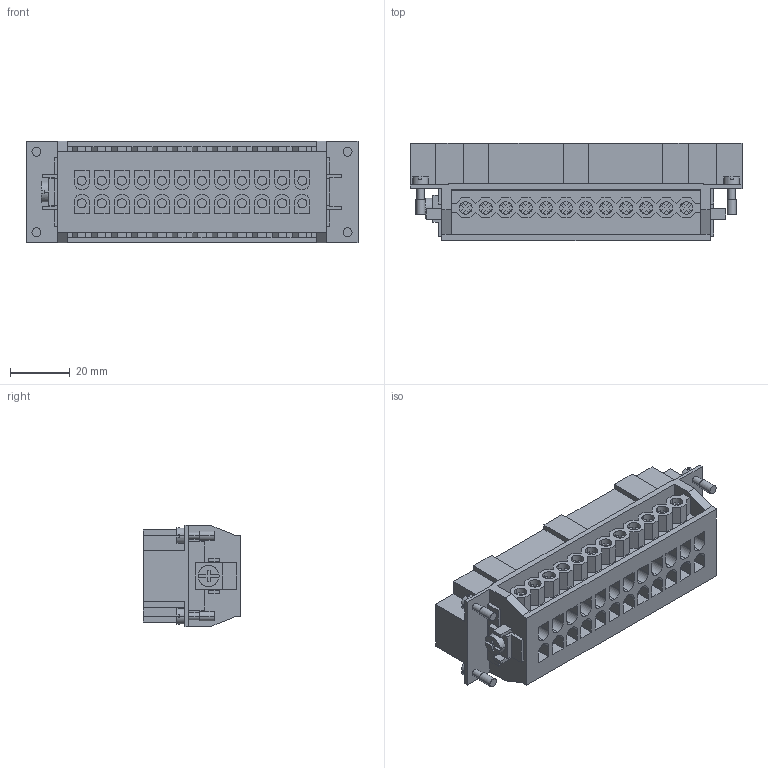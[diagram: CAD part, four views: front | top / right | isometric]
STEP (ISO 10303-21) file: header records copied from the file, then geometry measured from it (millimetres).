
FILE_DESCRIPTION (( 'STEP AP203' ), '1' );
FILE_NAME ('352264.STEP', '2025-06-27T08:28:32', ( '' ), ( '' ), 'SwSTEP 2.0', 'SolidWorks 2018', '' );
FILE_SCHEMA (( 'CONFIG_CONTROL_DESIGN' ));
Length unit declared in the file: millimetre
Products named in the file (1): 352264
Bounding box: 111 x 32.5 x 34 mm (x, y, z)
Volume: 49643.4 mm3; surface area: 34989.7 mm2
Topology: 1 solids, 1 shells, 1153 faces, 3120 edges, 2056 vertices
Faces by surface type: plane 837, cylinder 268, sphere 48
Entity records: 35479 total; most frequent: CARTESIAN_POINT 6186, ORIENTED_EDGE 6048, DIRECTION 6048, EDGE_CURVE 3024, LINE 2308, VECTOR 2308, VERTEX_POINT 2008, AXIS2_PLACEMENT_3D 1870
